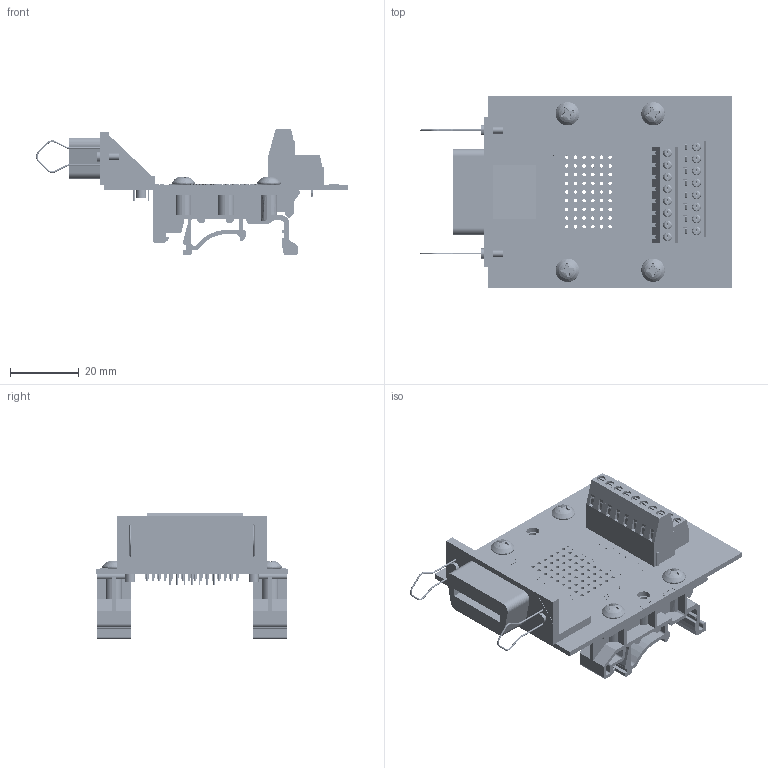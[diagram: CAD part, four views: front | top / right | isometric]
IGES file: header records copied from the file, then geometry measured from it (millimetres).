
Start section: SolidWorks IGES file using analytic representation for surfaces
Global section: file name: C:\Users\Jonny\Documents\Winford Engineering Jobs\BRKDC\BRKDC14F\brkdc14f-r-din_rev_a.igs; native system: SolidWorks 2017; preprocessor: SolidWorks 2017; author: Jonny; date: 180723.233255; units: inch
Bounding box: 91.05 x 55.85 x 36.77 mm (x, y, z)
Surface area: 33177.1 mm2 (no closed solid volume)
Topology: 0 solids, 0 shells, 5478 faces, 39462 edges, 39462 vertices
Faces by surface type: bspline 3828, revolution 1650
